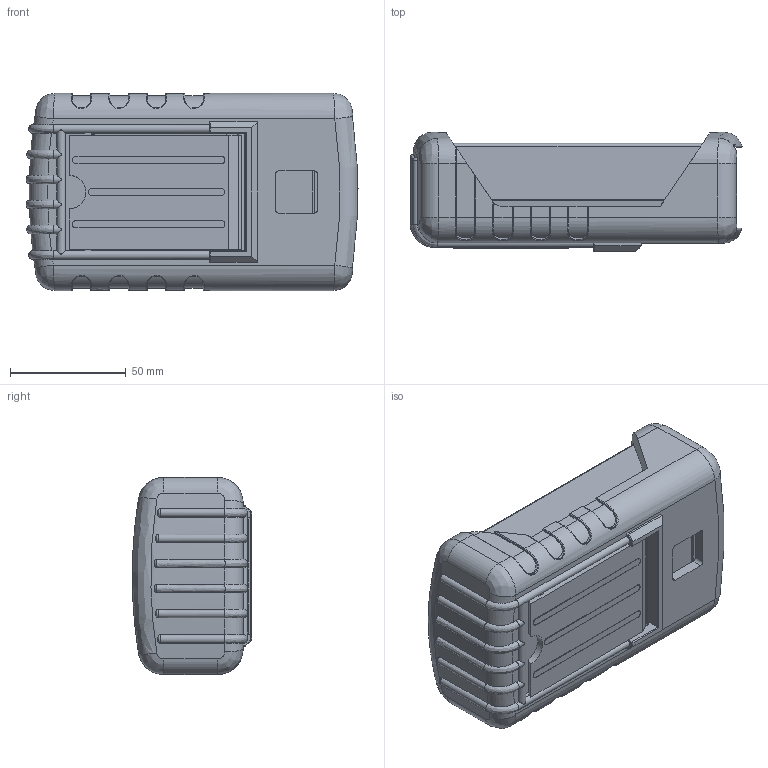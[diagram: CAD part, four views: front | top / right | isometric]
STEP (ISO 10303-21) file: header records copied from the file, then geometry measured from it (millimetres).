
FILE_DESCRIPTION (( 'STEP AP214' ), '1' );
FILE_NAME ('50-32-NO-F-BO.STEP', '2020-09-21T23:19:38', ( 'Rudy' ), ( '' ), 'SwSTEP 2.0', 'SolidWorks 2014', '' );
FILE_SCHEMA (( 'AUTOMOTIVE_DESIGN' ));
Length unit declared in the file: millimetre
Products named in the file (8): 50 Deep top-flush; 50-32-NO-F-BO; 50 RBD Boot; 50 RBD Stand; 50 PCB No Bat; 50_end panel tall; 50 base no bat
Assembly tree (7 placements, depth 3):
  50-32-NO-F-BO
    50 Deep top-flush
    50 base no bat
    50_end panel tall
    50 PCB No Bat
    50 RBD Boot
      50 RBD Boot
      50 RBD Stand
Bounding box: 143.18 x 51.39 x 84.99 mm (x, y, z)
Volume: 193087.3 mm3; surface area: 134988.2 mm2
Topology: 6 solids, 6 shells, 738 faces, 1995 edges, 1280 vertices
Faces by surface type: plane 415, cylinder 187, bspline 79, torus 27, cone 26, sphere 4
Entity records: 27846 total; most frequent: CARTESIAN_POINT 9654, ORIENTED_EDGE 3982, DIRECTION 3451, EDGE_CURVE 1991, VERTEX_POINT 1280, LINE 1245, VECTOR 1245, AXIS2_PLACEMENT_3D 1103
